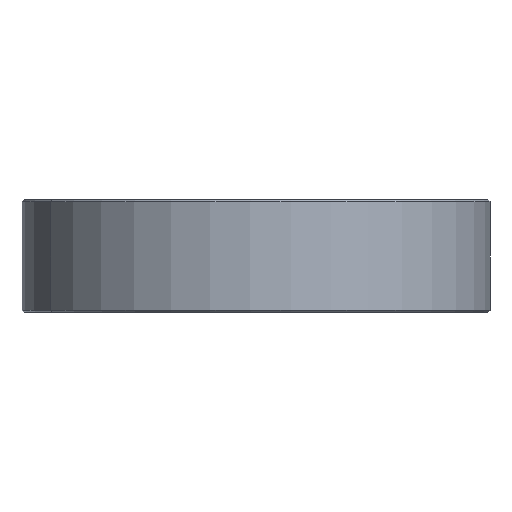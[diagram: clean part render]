
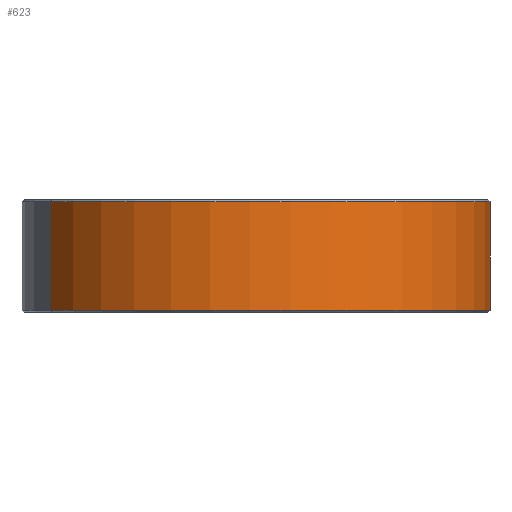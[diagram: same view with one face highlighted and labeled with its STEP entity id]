
A CAD part, front view. The second image highlights one B-rep face of the part: STEP entity #623.
In plain terms, the highlighted cylindrical face has radius 42.5 mm (diameter 85 mm), a partial arc.
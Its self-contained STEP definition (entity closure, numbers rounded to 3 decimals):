
#554=CARTESIAN_POINT('Vertex',(-37.297,-20.376,-24.57)) ;
#557=CARTESIAN_POINT('Axis2P3D Location',(0.,0.,-24.57)) ;
#561=CARTESIAN_POINT('Vertex',(37.297,20.376,-24.57)) ;
#593=CARTESIAN_POINT('Axis2P3D Location',(0.,0.,-34.42)) ;
#598=CARTESIAN_POINT('Line Origine',(-37.297,-20.376,-34.42)) ;
#602=CARTESIAN_POINT('Vertex',(-37.297,-20.376,-44.27)) ;
#605=CARTESIAN_POINT('Axis2P3D Location',(0.,0.,-44.27)) ;
#609=CARTESIAN_POINT('Vertex',(37.297,20.376,-44.27)) ;
#612=CARTESIAN_POINT('Line Origine',(37.297,20.376,-34.42)) ;
#558=DIRECTION('Axis2P3D Direction',(0.,0.,1.)) ;
#594=DIRECTION('Axis2P3D Direction',(0.,0.,1.)) ;
#595=DIRECTION('Axis2P3D XDirection',(-0.878,-0.479,-0.)) ;
#599=DIRECTION('Vector Direction',(0.,0.,1.)) ;
#606=DIRECTION('Axis2P3D Direction',(0.,0.,1.)) ;
#613=DIRECTION('Vector Direction',(0.,0.,1.)) ;
#559=AXIS2_PLACEMENT_3D('Circle Axis2P3D',#557,#558,$) ;
#596=AXIS2_PLACEMENT_3D('Cylinder Axis2P3D',#593,#594,#595) ;
#607=AXIS2_PLACEMENT_3D('Circle Axis2P3D',#605,#606,$) ;
#618=ORIENTED_EDGE('',*,*,#604,.F.) ;
#619=ORIENTED_EDGE('',*,*,#611,.T.) ;
#620=ORIENTED_EDGE('',*,*,#616,.T.) ;
#621=ORIENTED_EDGE('',*,*,#563,.F.) ;
#600=VECTOR('Line Direction',#599,1.) ;
#614=VECTOR('Line Direction',#613,1.) ;
#623=ADVANCED_FACE('Corps principal',(#622),#597,.T.) ;
#560=CIRCLE('generated circle',#559,42.5) ;
#608=CIRCLE('generated circle',#607,42.5) ;
#597=CYLINDRICAL_SURFACE('generated cylinder',#596,42.5) ;
#563=EDGE_CURVE('',#555,#562,#560,.T.) ;
#604=EDGE_CURVE('',#603,#555,#601,.T.) ;
#611=EDGE_CURVE('',#603,#610,#608,.T.) ;
#616=EDGE_CURVE('',#610,#562,#615,.T.) ;
#617=EDGE_LOOP('',(#618,#619,#620,#621)) ;
#622=FACE_OUTER_BOUND('',#617,.T.) ;
#601=LINE('Line',#598,#600) ;
#615=LINE('Line',#612,#614) ;
#555=VERTEX_POINT('',#554) ;
#562=VERTEX_POINT('',#561) ;
#603=VERTEX_POINT('',#602) ;
#610=VERTEX_POINT('',#609) ;
